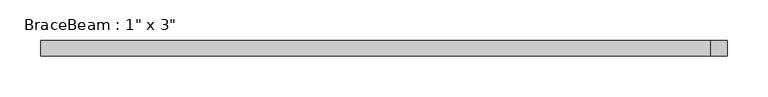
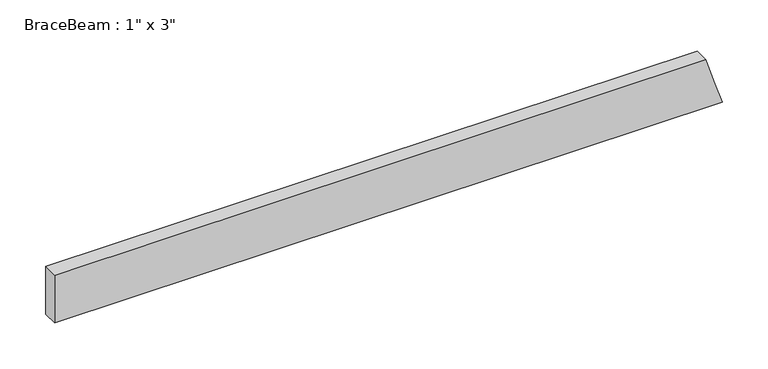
"""IFC4 building model written with IfcOpenShell, lengths in millimetres: beam geometry."""

from ifc_helpers import new_model, si_unit, origin, place, context, project, spatial, faceted_brep, source, transform, mapped, element, save


def beam_3441daed(model_context):
    return source(origin(), model_context, "Body", "Brep", [
        faceted_brep([(-416.417709, 9.525, -31.75), (425.1321864, 9.525, -31.75), (425.1321864, -9.525, -31.75), (-416.417709, -9.525, -31.75), (414.7693392, -9.525, 0.0), (404.406492, -9.525, 31.75), (-416.417709, -9.525, 31.75), (404.406492, 9.525, 31.75), (-416.417709, 9.525, 31.75), (414.7693392, 9.525, 0.0)], [[[0, 1, 2, 3]], [[3, 2, 4, 5, 6]], [[6, 5, 7, 8]], [[8, 7, 9, 1, 0]], [[8, 0, 3, 6]], [[5, 4, 2, 1, 9, 7]]]),
    ])


if __name__ == "__main__":
    model = new_model("IFC4")
    model_context = context("Model", 3, world=origin())
    ifc_project = project(units=[si_unit("LENGTHUNIT", "METRE", prefix="MILLI")], contexts=[model_context])
    site = spatial("IfcSite", under=ifc_project)
    building = spatial("IfcBuilding", under=site)
    placement = place(None, origin())
    beam_shape = beam_3441daed(model_context)
    element("IfcBeam", 1, ObjectType="BraceBeam : 1\" x 3\"", at=placement, inside=building, context=model_context, shape_type="MappedRepresentation", body=[
        mapped(beam_shape, transform((0.0, 0.0, 0.0), x_axis=(1.0, 0.0, 0.0), y_axis=(0.0, 1.0, 0.0), z_axis=(0.0, 0.0, 1.0))),
    ])
    save(model, "model.ifc")
